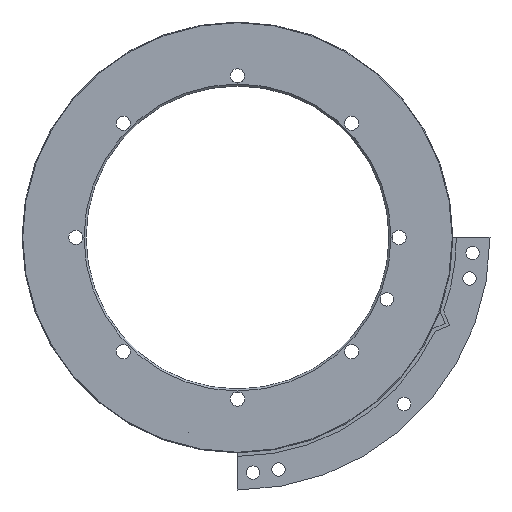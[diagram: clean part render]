
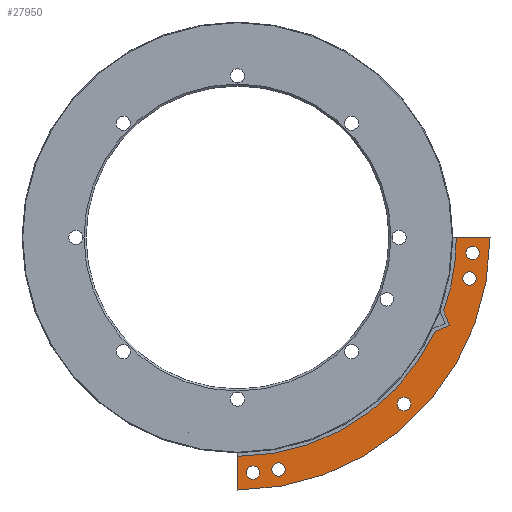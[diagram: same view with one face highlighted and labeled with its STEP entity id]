
A CAD part, front view. The second image highlights one B-rep face of the part: STEP entity #27950.
In plain terms, the highlighted planar face has unit normal (0, -1, 0).
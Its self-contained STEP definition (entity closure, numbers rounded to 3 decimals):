
#34 = AXIS2_PLACEMENT_3D ( 'NONE', #12897, #25902, #6946 ) ;
#629 = AXIS2_PLACEMENT_3D ( 'NONE', #2756, #22112, #11392 ) ;
#1117 = CARTESIAN_POINT ( 'NONE',  ( 30.616, 3.05, -10.905 ) ) ;
#1212 = EDGE_CURVE ( 'NONE', #9174, #26361, #16382, .T. ) ;
#1486 = EDGE_LOOP ( 'NONE', ( #3839, #21146, #12243, #17600, #17046, #21468, #23489 ) ) ;
#1550 = VERTEX_POINT ( 'NONE', #24130 ) ;
#1589 = CARTESIAN_POINT ( 'NONE',  ( 0., 3.05, 0. ) ) ;
#1821 = DIRECTION ( 'NONE',  ( 0., -1., 0. ) ) ;
#1860 = EDGE_LOOP ( 'NONE', ( #14074 ) ) ;
#2298 = DIRECTION ( 'NONE',  ( 0., -1., 0. ) ) ;
#2397 = VECTOR ( 'NONE', #14675, 1000. ) ;
#2740 = CIRCLE ( 'NONE', #6353, 32.5 ) ;
#2756 = CARTESIAN_POINT ( 'NONE',  ( 34.925, 3.05, -2.289 ) ) ;
#2794 = VECTOR ( 'NONE', #9479, 1000. ) ;
#3395 = LINE ( 'NONE', #7503, #2794 ) ;
#3701 = DIRECTION ( 'NONE',  ( 0., -1., 0. ) ) ;
#3746 = VECTOR ( 'NONE', #8028, 1000. ) ;
#3839 = ORIENTED_EDGE ( 'NONE', *, *, #4103, .T. ) ;
#4048 = LINE ( 'NONE', #25113, #2397 ) ;
#4103 = EDGE_CURVE ( 'NONE', #25611, #4129, #22899, .T. ) ;
#4129 = VERTEX_POINT ( 'NONE', #7954 ) ;
#4132 = DIRECTION ( 'NONE',  ( 0., 1., 0. ) ) ;
#5059 = EDGE_LOOP ( 'NONE', ( #5328 ) ) ;
#5328 = ORIENTED_EDGE ( 'NONE', *, *, #14896, .F. ) ;
#5379 = CARTESIAN_POINT ( 'NONE',  ( 6.078, 3.05, -35.468 ) ) ;
#6108 = DIRECTION ( 'NONE',  ( 0., 0., -1. ) ) ;
#6353 = AXIS2_PLACEMENT_3D ( 'NONE', #1589, #16873, #6108 ) ;
#6602 = EDGE_LOOP ( 'NONE', ( #25700 ) ) ;
#6946 = DIRECTION ( 'NONE',  ( 0., 0., -1. ) ) ;
#7503 = CARTESIAN_POINT ( 'NONE',  ( 31.504, 3.05, -13.05 ) ) ;
#7952 = FACE_OUTER_BOUND ( 'NONE', #1486, .T. ) ;
#7954 = CARTESIAN_POINT ( 'NONE',  ( 0., 3.05, -32.5 ) ) ;
#8028 = DIRECTION ( 'NONE',  ( -1., 0., 0. ) ) ;
#8198 = AXIS2_PLACEMENT_3D ( 'NONE', #24237, #19854, #22256 ) ;
#8281 = CIRCLE ( 'NONE', #15502, 1. ) ;
#8485 = AXIS2_PLACEMENT_3D ( 'NONE', #21380, #4132, #23504 ) ;
#8715 = VERTEX_POINT ( 'NONE', #1117 ) ;
#8778 = CIRCLE ( 'NONE', #629, 1. ) ;
#8907 = CARTESIAN_POINT ( 'NONE',  ( 32.5, 3.05, 0. ) ) ;
#9072 = DIRECTION ( 'NONE',  ( 0., 0., -1. ) ) ;
#9174 = VERTEX_POINT ( 'NONE', #9969 ) ;
#9479 = DIRECTION ( 'NONE',  ( -0.924, 0., -0.383 ) ) ;
#9632 = VERTEX_POINT ( 'NONE', #27710 ) ;
#9969 = CARTESIAN_POINT ( 'NONE',  ( 37.5, 3.05, 0. ) ) ;
#10453 = DIRECTION ( 'NONE',  ( 0., 0., -1. ) ) ;
#10665 = EDGE_CURVE ( 'NONE', #26361, #8715, #2740, .T. ) ;
#10751 = EDGE_CURVE ( 'NONE', #11747, #11747, #12214, .T. ) ;
#11085 = EDGE_LOOP ( 'NONE', ( #14372 ) ) ;
#11304 = VECTOR ( 'NONE', #20068, 1000. ) ;
#11392 = DIRECTION ( 'NONE',  ( 0., 0., -1. ) ) ;
#11747 = VERTEX_POINT ( 'NONE', #26724 ) ;
#11938 = EDGE_CURVE ( 'NONE', #12831, #25611, #3395, .T. ) ;
#12022 = CARTESIAN_POINT ( 'NONE',  ( 24.749, 3.05, -25.749 ) ) ;
#12214 = CIRCLE ( 'NONE', #34, 1. ) ;
#12243 = ORIENTED_EDGE ( 'NONE', *, *, #16460, .T. ) ;
#12340 = DIRECTION ( 'NONE',  ( 0., 0., -1. ) ) ;
#12831 = VERTEX_POINT ( 'NONE', #13382 ) ;
#12897 = CARTESIAN_POINT ( 'NONE',  ( 2.289, 3.05, -34.925 ) ) ;
#13193 = CARTESIAN_POINT ( 'NONE',  ( 34.468, 3.05, -6.078 ) ) ;
#13382 = CARTESIAN_POINT ( 'NONE',  ( 31.504, 3.05, -13.05 ) ) ;
#13609 = EDGE_CURVE ( 'NONE', #18103, #18103, #8281, .T. ) ;
#13739 = VERTEX_POINT ( 'NONE', #20632 ) ;
#14074 = ORIENTED_EDGE ( 'NONE', *, *, #16852, .F. ) ;
#14157 = VERTEX_POINT ( 'NONE', #12022 ) ;
#14372 = ORIENTED_EDGE ( 'NONE', *, *, #13609, .F. ) ;
#14618 = EDGE_CURVE ( 'NONE', #4129, #1550, #21774, .T. ) ;
#14675 = DIRECTION ( 'NONE',  ( 0.383, 0., -0.924 ) ) ;
#14896 = EDGE_CURVE ( 'NONE', #14157, #14157, #17194, .T. ) ;
#14976 = CARTESIAN_POINT ( 'NONE',  ( 24.749, 3.05, -24.749 ) ) ;
#15074 = ORIENTED_EDGE ( 'NONE', *, *, #10751, .F. ) ;
#15422 = CARTESIAN_POINT ( 'NONE',  ( 0., 3.05, -32.5 ) ) ;
#15502 = AXIS2_PLACEMENT_3D ( 'NONE', #19401, #2298, #19264 ) ;
#16382 = LINE ( 'NONE', #27525, #3746 ) ;
#16460 = EDGE_CURVE ( 'NONE', #1550, #9174, #20367, .T. ) ;
#16852 = EDGE_CURVE ( 'NONE', #13739, #13739, #24922, .T. ) ;
#16873 = DIRECTION ( 'NONE',  ( 0., 1., 0. ) ) ;
#17046 = ORIENTED_EDGE ( 'NONE', *, *, #10665, .T. ) ;
#17155 = FACE_BOUND ( 'NONE', #24701, .T. ) ;
#17194 = CIRCLE ( 'NONE', #23035, 1. ) ;
#17600 = ORIENTED_EDGE ( 'NONE', *, *, #1212, .T. ) ;
#18103 = VERTEX_POINT ( 'NONE', #5379 ) ;
#19259 = FACE_BOUND ( 'NONE', #1860, .T. ) ;
#19264 = DIRECTION ( 'NONE',  ( 0., 0., -1. ) ) ;
#19401 = CARTESIAN_POINT ( 'NONE',  ( 6.078, 3.05, -34.468 ) ) ;
#19854 = DIRECTION ( 'NONE',  ( 0., -1., 0. ) ) ;
#20068 = DIRECTION ( 'NONE',  ( 0., 0., -1. ) ) ;
#20367 = CIRCLE ( 'NONE', #8198, 37.5 ) ;
#20632 = CARTESIAN_POINT ( 'NONE',  ( 34.468, 3.05, -7.078 ) ) ;
#21146 = ORIENTED_EDGE ( 'NONE', *, *, #14618, .T. ) ;
#21380 = CARTESIAN_POINT ( 'NONE',  ( 0., 3.05, 0. ) ) ;
#21468 = ORIENTED_EDGE ( 'NONE', *, *, #24323, .T. ) ;
#21774 = LINE ( 'NONE', #15422, #11304 ) ;
#22112 = DIRECTION ( 'NONE',  ( 0., -1., 0. ) ) ;
#22256 = DIRECTION ( 'NONE',  ( 0., 0., -1. ) ) ;
#22668 = AXIS2_PLACEMENT_3D ( 'NONE', #13193, #26184, #9072 ) ;
#22899 = CIRCLE ( 'NONE', #8485, 32.5 ) ;
#23035 = AXIS2_PLACEMENT_3D ( 'NONE', #14976, #1821, #10453 ) ;
#23061 = CARTESIAN_POINT ( 'NONE',  ( 0., 3.05, 0. ) ) ;
#23489 = ORIENTED_EDGE ( 'NONE', *, *, #11938, .T. ) ;
#23504 = DIRECTION ( 'NONE',  ( 0., 0., -1. ) ) ;
#24130 = CARTESIAN_POINT ( 'NONE',  ( 0., 3.05, -37.5 ) ) ;
#24237 = CARTESIAN_POINT ( 'NONE',  ( 0., 3.05, 0. ) ) ;
#24323 = EDGE_CURVE ( 'NONE', #8715, #12831, #4048, .T. ) ;
#24409 = CARTESIAN_POINT ( 'NONE',  ( 29.36, 3.05, -13.938 ) ) ;
#24468 = AXIS2_PLACEMENT_3D ( 'NONE', #23061, #3701, #12340 ) ;
#24701 = EDGE_LOOP ( 'NONE', ( #15074 ) ) ;
#24922 = CIRCLE ( 'NONE', #22668, 1. ) ;
#25113 = CARTESIAN_POINT ( 'NONE',  ( 31.504, 3.05, -13.05 ) ) ;
#25183 = PLANE ( 'NONE',  #24468 ) ;
#25611 = VERTEX_POINT ( 'NONE', #24409 ) ;
#25700 = ORIENTED_EDGE ( 'NONE', *, *, #26175, .F. ) ;
#25754 = FACE_BOUND ( 'NONE', #6602, .T. ) ;
#25902 = DIRECTION ( 'NONE',  ( 0., -1., 0. ) ) ;
#26175 = EDGE_CURVE ( 'NONE', #9632, #9632, #8778, .T. ) ;
#26184 = DIRECTION ( 'NONE',  ( 0., -1., 0. ) ) ;
#26361 = VERTEX_POINT ( 'NONE', #8907 ) ;
#26724 = CARTESIAN_POINT ( 'NONE',  ( 2.289, 3.05, -35.925 ) ) ;
#27310 = FACE_BOUND ( 'NONE', #5059, .T. ) ;
#27525 = CARTESIAN_POINT ( 'NONE',  ( 32.5, 3.05, 0. ) ) ;
#27710 = CARTESIAN_POINT ( 'NONE',  ( 34.925, 3.05, -3.289 ) ) ;
#27875 = FACE_BOUND ( 'NONE', #11085, .T. ) ;
#27950 = ADVANCED_FACE ( 'NONE', ( #19259, #27310, #27875, #17155, #25754, #7952 ), #25183, .T. ) ;
